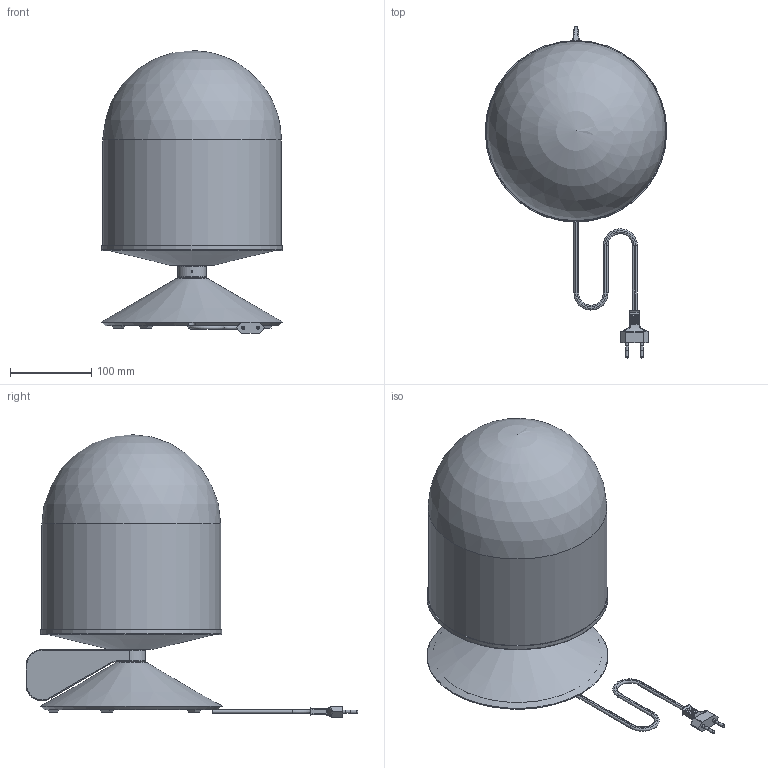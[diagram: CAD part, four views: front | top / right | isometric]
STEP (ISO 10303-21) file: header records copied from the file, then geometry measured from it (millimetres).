
FILE_DESCRIPTION( ( 'Unknown' ), '1' );
FILE_NAME( 'R:/Filer utan backup/step/Till hemsidan/Vinge.stp', 'Unknown', ( 'Unknown' ), ( 'Unknown' ), 'PSStep 16.0.42', 'Unknown', ' ' );
FILE_SCHEMA( ( 'AUTOMOTIVE_DESIGN { 1 0 10303 214 1 1 1 1 }' ) );
Length unit declared in the file: millimetre
Products named in the file (4): 41539-1-S01 Fotbricka
Bounding box: 223.53 x 408.5 x 348 mm (x, y, z)
Volume: 966471.5 mm3; surface area: 615192.2 mm2
Topology: 4 solids, 9 shells, 282 faces, 666 edges, 409 vertices
Faces by surface type: plane 143, cylinder 76, bspline 26, torus 17, sphere 14, cone 6
Full cylindrical faces by diameter (mm): 1 x5, 2.459 x1, 3.5 x2, 4 x6, 8.376 x1, 10.1 x3, 20 x1, 214 x1, 220 x1, 221 x1, 223 x1
Entity records: 11447 total; most frequent: CARTESIAN_POINT 3464, DIRECTION 1242, ORIENTED_EDGE 1116, EDGE_CURVE 558, AXIS2_PLACEMENT_3D 474, VERTEX_POINT 369, EDGE_LOOP 337, FACE_OUTER_BOUND 298
